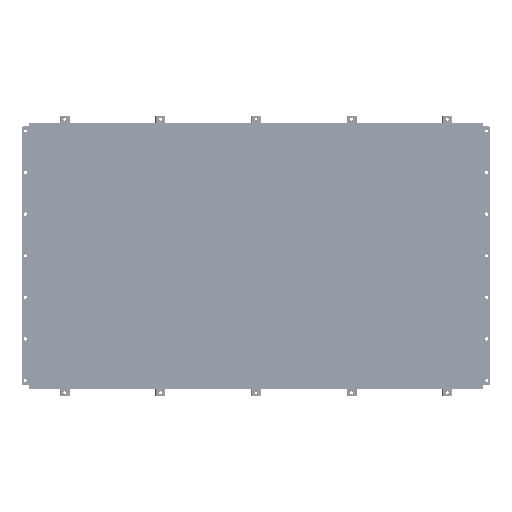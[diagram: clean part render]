
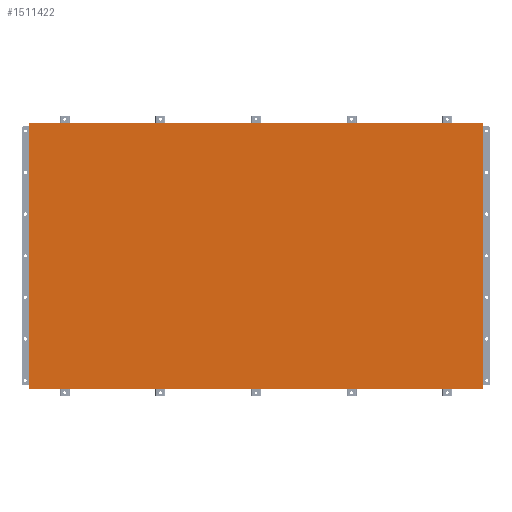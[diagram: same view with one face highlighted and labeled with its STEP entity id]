
A CAD part, top view. The second image highlights one B-rep face of the part: STEP entity #1511422.
In plain terms, the highlighted planar face has unit normal (0, 0, 1).
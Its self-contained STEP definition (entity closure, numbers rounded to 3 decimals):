
#1511307=DIRECTION('',(0.,-1.,0.));
#1511308=VECTOR('',#1511307,318.9);
#1511309=CARTESIAN_POINT('',(-272.34,159.45,0.08));
#1511310=LINE('',#1511309,#1511308);
#1511311=DIRECTION('',(-1.,0.,0.));
#1511312=VECTOR('',#1511311,544.68);
#1511313=CARTESIAN_POINT('',(272.34,159.45,0.08));
#1511314=LINE('',#1511313,#1511312);
#1511315=DIRECTION('',(0.,1.,0.));
#1511316=VECTOR('',#1511315,318.9);
#1511317=CARTESIAN_POINT('',(272.34,-159.45,0.08));
#1511318=LINE('',#1511317,#1511316);
#1511319=DIRECTION('',(1.,0.,0.));
#1511320=VECTOR('',#1511319,544.68);
#1511321=CARTESIAN_POINT('',(-272.34,-159.45,0.08));
#1511322=LINE('',#1511321,#1511320);
#1511331=CARTESIAN_POINT('',(-272.34,159.45,0.08));
#1511332=CARTESIAN_POINT('',(-272.34,-159.45,0.08));
#1511333=VERTEX_POINT('',#1511331);
#1511334=VERTEX_POINT('',#1511332);
#1511335=CARTESIAN_POINT('',(272.34,-159.45,0.08));
#1511336=VERTEX_POINT('',#1511335);
#1511337=CARTESIAN_POINT('',(272.34,159.45,0.08));
#1511338=VERTEX_POINT('',#1511337);
#1511411=CARTESIAN_POINT('',(0.,0.,0.08));
#1511412=DIRECTION('',(0.,0.,1.));
#1511413=DIRECTION('',(1.,0.,0.));
#1511414=AXIS2_PLACEMENT_3D('',#1511411,#1511412,#1511413);
#1511415=PLANE('',#1511414);
#1511416=ORIENTED_EDGE('',*,*,#1511363,.F.);
#1511417=ORIENTED_EDGE('',*,*,#1511378,.F.);
#1511418=ORIENTED_EDGE('',*,*,#1511392,.F.);
#1511419=ORIENTED_EDGE('',*,*,#1511405,.F.);
#1511420=EDGE_LOOP('',(#1511416,#1511417,#1511418,#1511419));
#1511421=FACE_OUTER_BOUND('',#1511420,.F.);
#1511422=ADVANCED_FACE('',(#1511421),#1511415,.T.);
#1511363=EDGE_CURVE('',#1511333,#1511334,#1511310,.T.);
#1511378=EDGE_CURVE('',#1511338,#1511333,#1511314,.T.);
#1511392=EDGE_CURVE('',#1511336,#1511338,#1511318,.T.);
#1511405=EDGE_CURVE('',#1511334,#1511336,#1511322,.T.);
